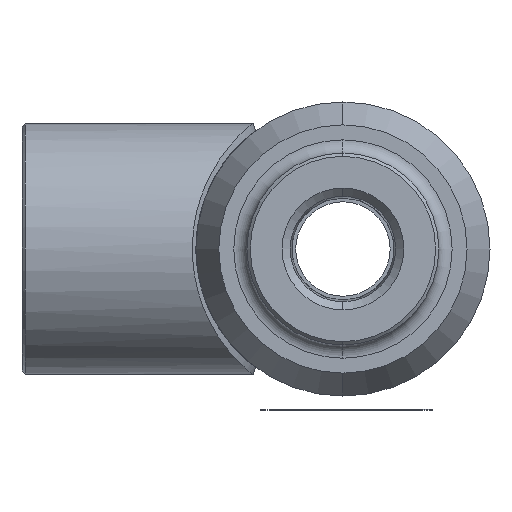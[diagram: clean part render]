
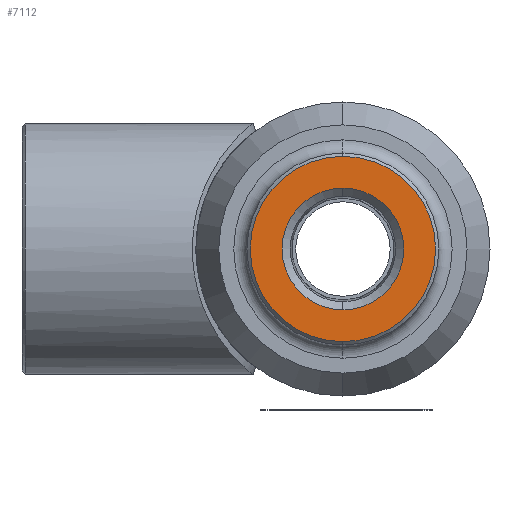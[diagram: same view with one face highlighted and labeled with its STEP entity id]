
A CAD part, front view. The second image highlights one B-rep face of the part: STEP entity #7112.
In plain terms, the highlighted planar face has unit normal (0, -1, 0).
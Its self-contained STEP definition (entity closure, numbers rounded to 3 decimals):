
#47 = PLANE ( 'NONE',  #8640 ) ;
#57 = CARTESIAN_POINT ( 'NONE',  ( 0., -35., 0. ) ) ;
#911 = DIRECTION ( 'NONE',  ( 0., 0., -1. ) ) ;
#950 = CARTESIAN_POINT ( 'NONE',  ( 0., -35., -14. ) ) ;
#1501 = VERTEX_POINT ( 'NONE', #9420 ) ;
#1683 = FACE_BOUND ( 'NONE', #1938, .T. ) ;
#1696 = CARTESIAN_POINT ( 'NONE',  ( 0., -35., 9.2 ) ) ;
#1788 = EDGE_CURVE ( 'NONE', #6765, #1501, #6732, .T. ) ;
#1840 = VERTEX_POINT ( 'NONE', #950 ) ;
#1938 = EDGE_LOOP ( 'NONE', ( #5009, #4309 ) ) ;
#2307 = ORIENTED_EDGE ( 'NONE', *, *, #7841, .T. ) ;
#2387 = DIRECTION ( 'NONE',  ( 0., 0., 1. ) ) ;
#2695 = CARTESIAN_POINT ( 'NONE',  ( 0., -35., 0. ) ) ;
#2758 = AXIS2_PLACEMENT_3D ( 'NONE', #4174, #5865, #8516 ) ;
#3226 = CIRCLE ( 'NONE', #7901, 9.2 ) ;
#3388 = DIRECTION ( 'NONE',  ( 0., -1., 0. ) ) ;
#3488 = DIRECTION ( 'NONE',  ( 0., 1., 0. ) ) ;
#3900 = ORIENTED_EDGE ( 'NONE', *, *, #9327, .T. ) ;
#4147 = AXIS2_PLACEMENT_3D ( 'NONE', #2695, #9576, #8894 ) ;
#4174 = CARTESIAN_POINT ( 'NONE',  ( 0., -35., 0. ) ) ;
#4309 = ORIENTED_EDGE ( 'NONE', *, *, #1788, .F. ) ;
#4561 = CARTESIAN_POINT ( 'NONE',  ( 0., -35., 14. ) ) ;
#4697 = CIRCLE ( 'NONE', #9024, 14. ) ;
#5009 = ORIENTED_EDGE ( 'NONE', *, *, #5920, .F. ) ;
#5865 = DIRECTION ( 'NONE',  ( 0., -1., 0. ) ) ;
#5918 = FACE_OUTER_BOUND ( 'NONE', #7315, .T. ) ;
#5920 = EDGE_CURVE ( 'NONE', #1501, #6765, #3226, .T. ) ;
#6732 = CIRCLE ( 'NONE', #2758, 9.2 ) ;
#6765 = VERTEX_POINT ( 'NONE', #1696 ) ;
#7112 = ADVANCED_FACE ( 'NONE', ( #5918, #1683 ), #47, .F. ) ;
#7167 = VERTEX_POINT ( 'NONE', #4561 ) ;
#7315 = EDGE_LOOP ( 'NONE', ( #2307, #3900 ) ) ;
#7841 = EDGE_CURVE ( 'NONE', #7167, #1840, #8648, .T. ) ;
#7901 = AXIS2_PLACEMENT_3D ( 'NONE', #57, #8633, #911 ) ;
#8516 = DIRECTION ( 'NONE',  ( 0., 0., -1. ) ) ;
#8633 = DIRECTION ( 'NONE',  ( 0., -1., 0. ) ) ;
#8640 = AXIS2_PLACEMENT_3D ( 'NONE', #11055, #3488, #10367 ) ;
#8648 = CIRCLE ( 'NONE', #4147, 14. ) ;
#8894 = DIRECTION ( 'NONE',  ( 0., 0., 1. ) ) ;
#9024 = AXIS2_PLACEMENT_3D ( 'NONE', #10216, #3388, #2387 ) ;
#9327 = EDGE_CURVE ( 'NONE', #1840, #7167, #4697, .T. ) ;
#9420 = CARTESIAN_POINT ( 'NONE',  ( 0., -35., -9.2 ) ) ;
#9576 = DIRECTION ( 'NONE',  ( 0., -1., 0. ) ) ;
#10216 = CARTESIAN_POINT ( 'NONE',  ( 0., -35., 0. ) ) ;
#10367 = DIRECTION ( 'NONE',  ( 0., 0., 1. ) ) ;
#11055 = CARTESIAN_POINT ( 'NONE',  ( 14.5, -35., 0. ) ) ;
